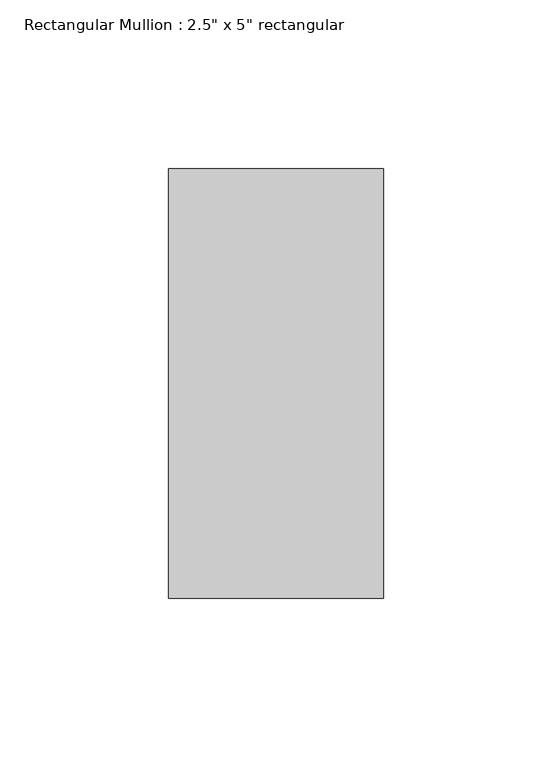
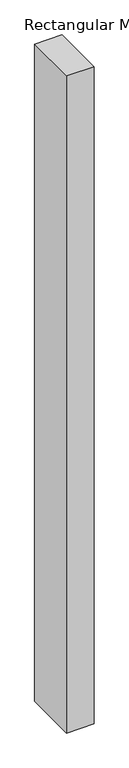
"""IFC4 building model written with IfcOpenShell, lengths in millimetres: member geometry."""

from ifc_helpers import new_model, si_unit, frame, origin, place, context, project, spatial, polyline, outline, extrude, source, transform, mapped, element, save


def member_307239a2(model_context):
    return source(origin(), model_context, "Body", "SweptSolid", [
        extrude(outline(polyline([(31.75, 63.5), (31.75, -63.5), (-31.75, -63.5), (-31.75, 63.5), (31.75, 63.5)])), frame((0.0, 0.0, -1600.2), z_axis=(0.0, 0.0, 1.0), x_axis=(1.0, 0.0, 0.0)), (0.0, 0.0, 1.0), 1600.2),
    ])


if __name__ == "__main__":
    model = new_model("IFC4")
    model_context = context("Model", 3, world=origin())
    ifc_project = project(units=[si_unit("LENGTHUNIT", "METRE", prefix="MILLI")], contexts=[model_context])
    site = spatial("IfcSite", under=ifc_project)
    building = spatial("IfcBuilding", under=site)
    placement = place(None, origin())
    member_shape = member_307239a2(model_context)
    element("IfcMember", 1, ObjectType="Rectangular Mullion : 2.5\" x 5\" rectangular", at=placement, inside=building, context=model_context, shape_type="MappedRepresentation", body=[
        mapped(member_shape, transform((0.0, 0.0, 0.0), x_axis=(1.0, 0.0, 0.0), y_axis=(0.0, 1.0, 0.0), z_axis=(0.0, 0.0, 1.0))),
    ])
    save(model, "model.ifc")
